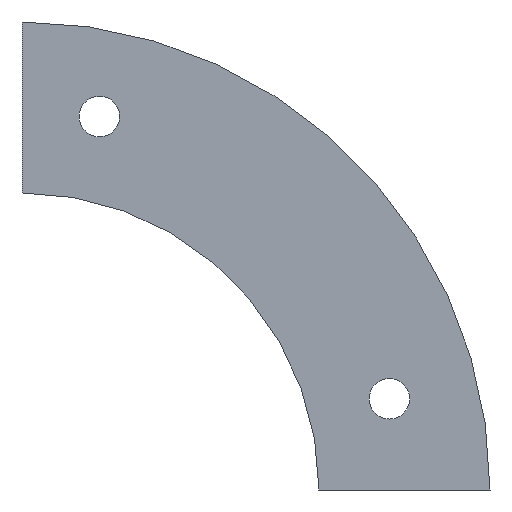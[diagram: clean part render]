
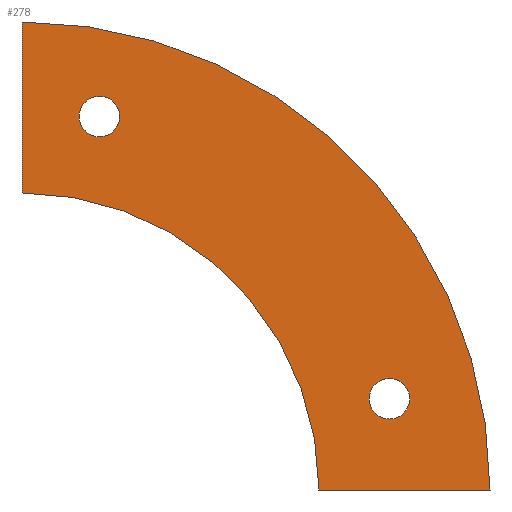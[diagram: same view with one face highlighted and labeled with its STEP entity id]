
A CAD part, front view. The second image highlights one B-rep face of the part: STEP entity #278.
In plain terms, the highlighted planar face has unit normal (0, -1, 0).
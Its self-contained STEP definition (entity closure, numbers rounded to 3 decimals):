
#37=LINE('',#484,#53);
#38=LINE('',#485,#54);
#53=VECTOR('',#403,19.);
#54=VECTOR('',#404,19.);
#58=PLANE('',#316);
#67=FACE_BOUND('',#105,.T.);
#68=FACE_BOUND('',#106,.T.);
#82=FACE_OUTER_BOUND('',#104,.T.);
#104=EDGE_LOOP('',(#237,#238,#239,#240));
#105=EDGE_LOOP('',(#241));
#106=EDGE_LOOP('',(#242));
#114=CIRCLE('',#291,2.25);
#116=CIRCLE('',#295,2.25);
#118=CIRCLE('',#298,52.);
#128=CIRCLE('',#315,33.);
#136=VERTEX_POINT('',#427);
#138=VERTEX_POINT('',#433);
#139=VERTEX_POINT('',#436);
#142=VERTEX_POINT('',#441);
#153=VERTEX_POINT('',#478);
#154=VERTEX_POINT('',#480);
#162=EDGE_CURVE('',#136,#136,#114,.T.);
#164=EDGE_CURVE('',#138,#138,#116,.T.);
#168=EDGE_CURVE('',#139,#142,#118,.T.);
#187=EDGE_CURVE('',#153,#154,#128,.T.);
#189=EDGE_CURVE('',#153,#139,#37,.T.);
#190=EDGE_CURVE('',#142,#154,#38,.T.);
#237=ORIENTED_EDGE('',*,*,#189,.T.);
#238=ORIENTED_EDGE('',*,*,#168,.T.);
#239=ORIENTED_EDGE('',*,*,#190,.T.);
#240=ORIENTED_EDGE('',*,*,#187,.F.);
#241=ORIENTED_EDGE('',*,*,#162,.F.);
#242=ORIENTED_EDGE('',*,*,#164,.F.);
#278=ADVANCED_FACE('',(#82,#67,#68),#58,.F.);
#291=AXIS2_PLACEMENT_3D('',#428,#339,#340);
#295=AXIS2_PLACEMENT_3D('',#434,#347,#348);
#298=AXIS2_PLACEMENT_3D('',#443,#355,#356);
#315=AXIS2_PLACEMENT_3D('',#481,#398,#399);
#316=AXIS2_PLACEMENT_3D('',#483,#401,#402);
#339=DIRECTION('center_axis',(0.,-1.,0.));
#340=DIRECTION('ref_axis',(-1.,0.,0.));
#347=DIRECTION('center_axis',(0.,-1.,0.));
#348=DIRECTION('ref_axis',(-1.,0.,0.));
#355=DIRECTION('center_axis',(0.,-1.,0.));
#356=DIRECTION('ref_axis',(1.,0.,0.));
#398=DIRECTION('center_axis',(0.,-1.,0.));
#399=DIRECTION('ref_axis',(1.,0.,0.));
#401=DIRECTION('center_axis',(0.,1.,0.));
#402=DIRECTION('ref_axis',(0.,0.,1.));
#403=DIRECTION('',(1.,0.,0.));
#404=DIRECTION('',(0.,0.,-1.));
#427=CARTESIAN_POINT('',(5.077,-1.,10.13));
#428=CARTESIAN_POINT('Origin',(2.827,-1.,10.13));
#433=CARTESIAN_POINT('',(-27.145,-1.,41.499));
#434=CARTESIAN_POINT('Origin',(-29.395,-1.,41.499));
#436=CARTESIAN_POINT('',(14.,-1.,0.));
#441=CARTESIAN_POINT('',(-38.,-1.,52.));
#443=CARTESIAN_POINT('Origin',(-38.,-1.,0.));
#478=CARTESIAN_POINT('',(-5.,-1.,0.));
#480=CARTESIAN_POINT('',(-38.,-1.,33.));
#481=CARTESIAN_POINT('Origin',(-38.,-1.,0.));
#483=CARTESIAN_POINT('Origin',(14.,-1.,0.));
#484=CARTESIAN_POINT('',(-5.,-1.,0.));
#485=CARTESIAN_POINT('',(-38.,-1.,33.));
